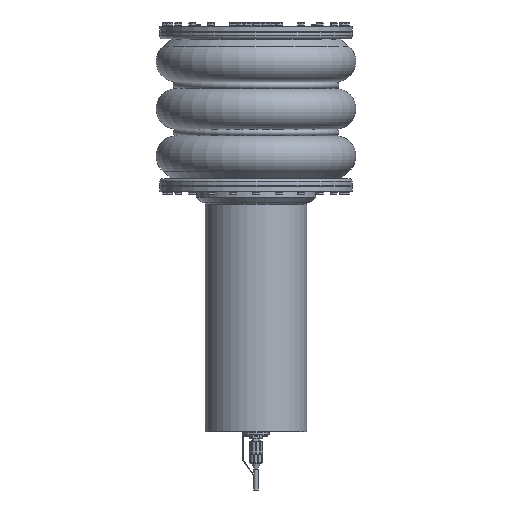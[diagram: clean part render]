
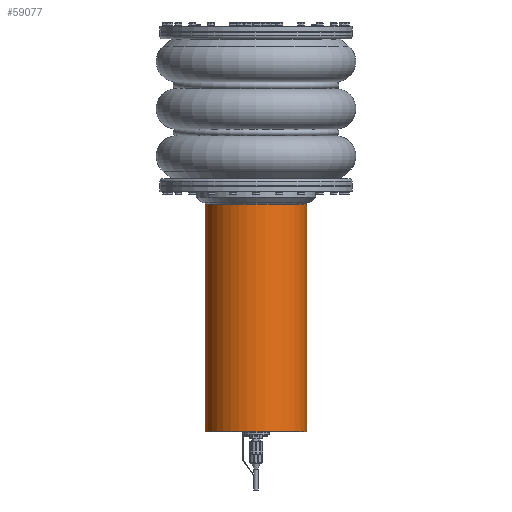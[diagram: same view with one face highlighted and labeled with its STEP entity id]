
A CAD part, front view. The second image highlights one B-rep face of the part: STEP entity #59077.
In plain terms, the highlighted cylindrical face has radius 136.5 mm (diameter 273 mm), a full revolution.
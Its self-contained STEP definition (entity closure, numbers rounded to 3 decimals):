
#8759=FACE_OUTER_BOUND('',#12528,.T.);
#12528=EDGE_LOOP('',(#51111,#51112,#51113,#51114));
#14165=CIRCLE('',#62821,136.5);
#14178=CIRCLE('',#62845,136.5);
#18346=LINE('',#102522,#22552);
#22552=VECTOR('',#74189,136.5);
#27657=VERTEX_POINT('',#102473);
#27670=VERTEX_POINT('',#102518);
#35524=EDGE_CURVE('',#27657,#27657,#14165,.T.);
#35545=EDGE_CURVE('',#27670,#27670,#14178,.T.);
#35547=EDGE_CURVE('',#27657,#27670,#18346,.T.);
#51111=ORIENTED_EDGE('',*,*,#35524,.F.);
#51112=ORIENTED_EDGE('',*,*,#35547,.T.);
#51113=ORIENTED_EDGE('',*,*,#35545,.F.);
#51114=ORIENTED_EDGE('',*,*,#35547,.F.);
#52868=CYLINDRICAL_SURFACE('',#62846,136.5);
#59077=ADVANCED_FACE('',(#8759),#52868,.T.);
#62821=AXIS2_PLACEMENT_3D('',#102474,#74128,#74129);
#62845=AXIS2_PLACEMENT_3D('',#102519,#74184,#74185);
#62846=AXIS2_PLACEMENT_3D('',#102521,#74187,#74188);
#74128=DIRECTION('center_axis',(0.,0.,
-1.));
#74129=DIRECTION('ref_axis',(-1.,0.,0.));
#74184=DIRECTION('center_axis',(0.,0.,
1.));
#74185=DIRECTION('ref_axis',(-1.,0.,0.));
#74187=DIRECTION('center_axis',(0.,0.,
-1.));
#74188=DIRECTION('ref_axis',(-1.,0.,0.));
#74189=DIRECTION('',(0.,0.,1.));
#102473=CARTESIAN_POINT('',(136.5,0.,-645.));
#102474=CARTESIAN_POINT('Origin',(0.,0.,
-645.));
#102518=CARTESIAN_POINT('',(136.5,0.,-33.743));
#102519=CARTESIAN_POINT('Origin',(0.,0.,
-33.743));
#102521=CARTESIAN_POINT('Origin',(0.,0.,
-633.));
#102522=CARTESIAN_POINT('',(136.5,0.,-633.));
